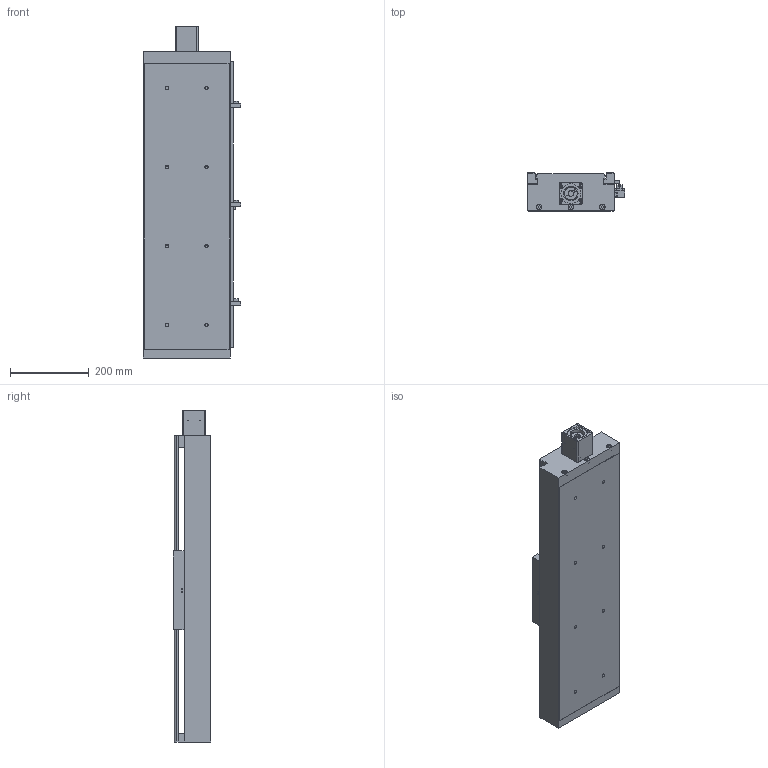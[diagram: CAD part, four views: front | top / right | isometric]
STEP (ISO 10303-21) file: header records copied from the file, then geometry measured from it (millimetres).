
FILE_DESCRIPTION((''),'2;1');
FILE_NAME('E:\libraries\UIA actuator library 2016\standard actuator\UIA220R20NDC\UIA220R20NDC ball screw 25\UIA220R20NDC-_ _ _-R25_ _ stp file, 01May16\UIA220R20NDC-500-R25_ _-M60-P13-C10-S.stp','2016-04-29T17:26:44',('h029'),(''),'Autodesk Inventor 11','Autodesk Inventor 11','');
FILE_SCHEMA(('AUTOMOTIVE_DESIGN { 1 0 10303 214 1 1 1 1 }'));
Length unit declared in the file: millimetre
Products named in the file (10): UIA220R20NDC-500-R25_ _; UIA220R20NDC-body; 41-100 0010 CARRIAGE; sensor rail; Sensor Switch; motor mount M60; SOH-32C; SOH-32C-3; SOH-32C-1; SOH-32C-2
Assembly tree (9 placements, depth 3):
  UIA220R20NDC-500-R25_ _
    UIA220R20NDC-body
    41-100 0010 CARRIAGE
    sensor rail
    Sensor Switch
    motor mount M60
    SOH-32C
      SOH-32C-3
      SOH-32C-1
      SOH-32C-2
Bounding box: 246.5 x 96 x 841 mm (x, y, z)
Volume: 5319463.9 mm3; surface area: 1200016.1 mm2
Topology: 8 solids, 8 shells, 511 faces, 1365 edges, 897 vertices
Faces by surface type: plane 342, bspline 121, cylinder 46, cone 2
Full cylindrical faces by diameter (mm): 3.242 x2, 4.5 x2, 7 x4, 7.5 x2, 13.8 x3, 14 x6, 17 x1, 32 x3, 37 x1, 50.3 x1, 50.5 x1
Entity records: 16706 total; most frequent: CARTESIAN_POINT 4729, ORIENTED_EDGE 2328, DIRECTION 2277, EDGE_CURVE 1164, VECTOR 849, LINE 849, VERTEX_POINT 823, EDGE_LOOP 741
